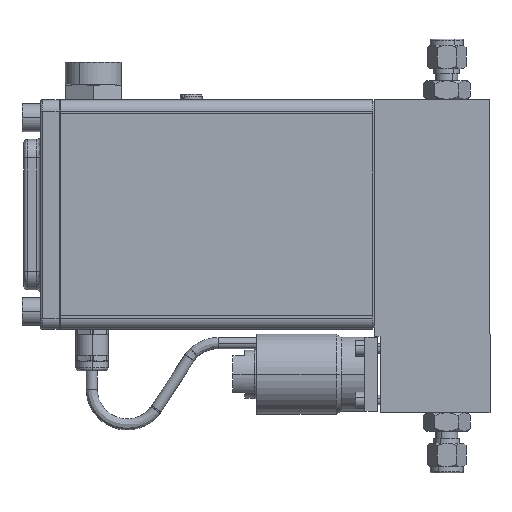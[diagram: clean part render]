
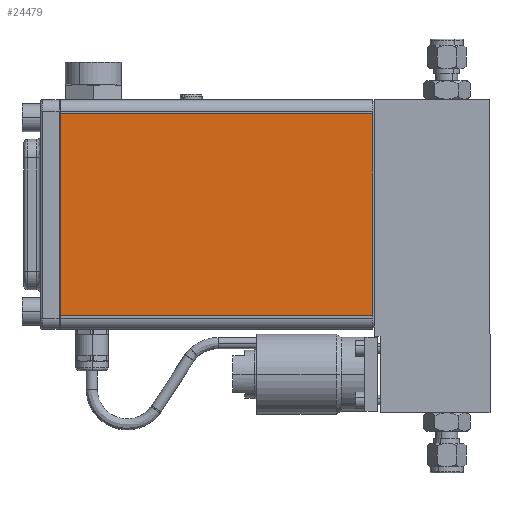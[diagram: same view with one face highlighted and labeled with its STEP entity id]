
A CAD part, left-side view. The second image highlights one B-rep face of the part: STEP entity #24479.
In plain terms, the highlighted planar face has unit normal (-1, 0, 0).
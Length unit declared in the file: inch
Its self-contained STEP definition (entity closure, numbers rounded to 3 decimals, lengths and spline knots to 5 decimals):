
#127 = FACE_OUTER_BOUND ( 'NONE', #21051, .T. ) ;
#1294 = CARTESIAN_POINT ( 'NONE',  ( -1.92741, 7.22382, 1.63707 ) ) ;
#1533 = AXIS2_PLACEMENT_3D ( 'NONE', #27396, #7161, #18602 ) ;
#1869 = ORIENTED_EDGE ( 'NONE', *, *, #21321, .F. ) ;
#4370 = CARTESIAN_POINT ( 'NONE',  ( -1.92741, 7.22382, 5.03007 ) ) ;
#7161 = DIRECTION ( 'NONE',  ( 1., 0., 0. ) ) ;
#8186 = EDGE_CURVE ( 'NONE', #21753, #14807, #12637, .T. ) ;
#8430 = EDGE_CURVE ( 'NONE', #14807, #9687, #10028, .T. ) ;
#9022 = CARTESIAN_POINT ( 'NONE',  ( -1.92741, 1.97382, 5.03007 ) ) ;
#9108 = CARTESIAN_POINT ( 'NONE',  ( -1.92741, 7.22382, 1.63707 ) ) ;
#9233 = PLANE ( 'NONE',  #1533 ) ;
#9687 = VERTEX_POINT ( 'NONE', #4370 ) ;
#9927 = VECTOR ( 'NONE', #21471, 39.37008 ) ;
#10028 = LINE ( 'NONE', #20899, #17349 ) ;
#10310 = CARTESIAN_POINT ( 'NONE',  ( -1.92741, 7.22382, 5.03007 ) ) ;
#12637 = LINE ( 'NONE', #1294, #16381 ) ;
#13512 = ORIENTED_EDGE ( 'NONE', *, *, #16503, .F. ) ;
#14807 = VERTEX_POINT ( 'NONE', #9108 ) ;
#15113 = ORIENTED_EDGE ( 'NONE', *, *, #8430, .F. ) ;
#15981 = VECTOR ( 'NONE', #22282, 39.37008 ) ;
#16381 = VECTOR ( 'NONE', #17694, 39.37008 ) ;
#16435 = DIRECTION ( 'NONE',  ( 0., 0., 1. ) ) ;
#16503 = EDGE_CURVE ( 'NONE', #9687, #28608, #18784, .T. ) ;
#17349 = VECTOR ( 'NONE', #16435, 39.37008 ) ;
#17694 = DIRECTION ( 'NONE',  ( 0., 1., 0. ) ) ;
#18602 = DIRECTION ( 'NONE',  ( 0., -1., 0. ) ) ;
#18784 = LINE ( 'NONE', #10310, #9927 ) ;
#20899 = CARTESIAN_POINT ( 'NONE',  ( -1.92741, 7.22382, 5.03007 ) ) ;
#21051 = EDGE_LOOP ( 'NONE', ( #15113, #28636, #1869, #13512 ) ) ;
#21321 = EDGE_CURVE ( 'NONE', #28608, #21753, #28967, .T. ) ;
#21471 = DIRECTION ( 'NONE',  ( 0., -1., 0. ) ) ;
#21753 = VERTEX_POINT ( 'NONE', #22525 ) ;
#22282 = DIRECTION ( 'NONE',  ( 0., 0., -1. ) ) ;
#22525 = CARTESIAN_POINT ( 'NONE',  ( -1.92741, 1.97382, 1.63707 ) ) ;
#24479 = ADVANCED_FACE ( 'NONE', ( #127 ), #9233, .F. ) ;
#27396 = CARTESIAN_POINT ( 'NONE',  ( -1.92741, 7.22382, 5.03007 ) ) ;
#28608 = VERTEX_POINT ( 'NONE', #28903 ) ;
#28636 = ORIENTED_EDGE ( 'NONE', *, *, #8186, .F. ) ;
#28903 = CARTESIAN_POINT ( 'NONE',  ( -1.92741, 1.97382, 5.03007 ) ) ;
#28967 = LINE ( 'NONE', #9022, #15981 ) ;
